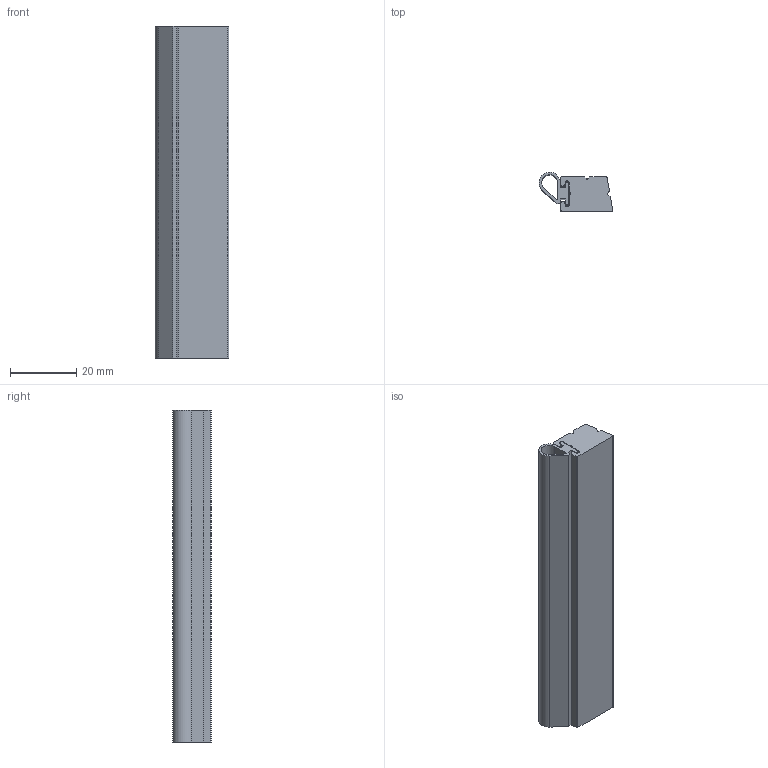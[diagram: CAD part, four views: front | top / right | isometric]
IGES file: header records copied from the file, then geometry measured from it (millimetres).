
Global section: file name: No Iges File Name specified; native system: Autodesk Inventor 2012; preprocessor: AutoDesk Inventor Iges Exporter R2012; author: anna.b; date: 20130718.083503; units: millimetre
Bounding box: 22.13 x 11.67 x 100 mm (x, y, z)
Volume: 16569.4 mm3; surface area: 12173.4 mm2
Topology: 2 solids, 2 shells, 50 faces, 138 edges, 92 vertices
Faces by surface type: plane 32, cylinder 11, revolution 7
